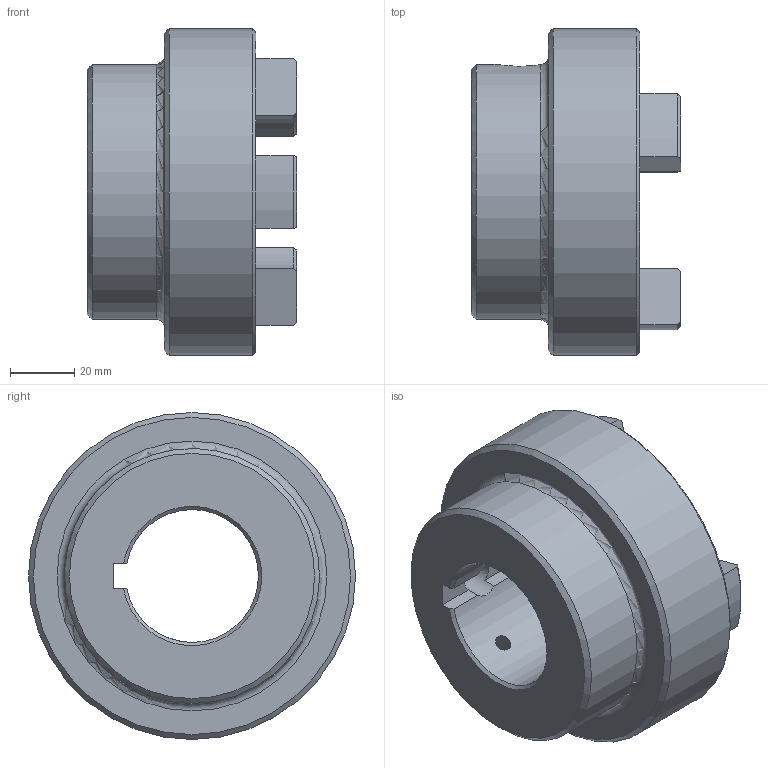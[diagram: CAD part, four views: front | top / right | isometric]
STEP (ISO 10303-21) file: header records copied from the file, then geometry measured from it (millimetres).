
FILE_DESCRIPTION (( 'STEP AP203' ), '1' );
FILE_NAME ('RC4.step', '2024-07-24T17:45:45', ( 'Adlan' ), ( '' ), 'SwSTEP 2.0', 'SolidWorks 2013', '' );
FILE_SCHEMA (( 'CONFIG_CONTROL_DESIGN' ));
Length unit declared in the file: inch
Products named in the file (1): RC4
Bounding box: 65.02 x 101.6 x 101.6 mm (x, y, z)
Volume: 226876.2 mm3; surface area: 41285 mm2
Topology: 1 solids, 1 shells, 71 faces, 188 edges, 119 vertices
Faces by surface type: cylinder 26, plane 20, torus 13, cone 12
Full cylindrical faces by diameter (mm): 5.105 x1, 10.716 x1, 79.248 x1, 101.6 x1
Entity records: 2451 total; most frequent: CARTESIAN_POINT 656, DIRECTION 374, ORIENTED_EDGE 342, EDGE_CURVE 171, AXIS2_PLACEMENT_3D 148, VERTEX_POINT 112, EDGE_LOOP 87, LINE 78
